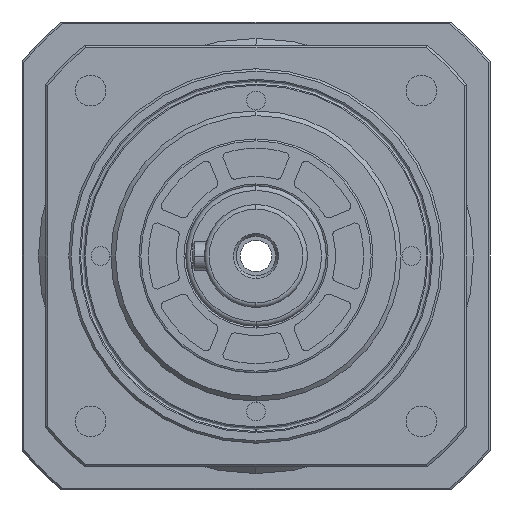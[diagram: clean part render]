
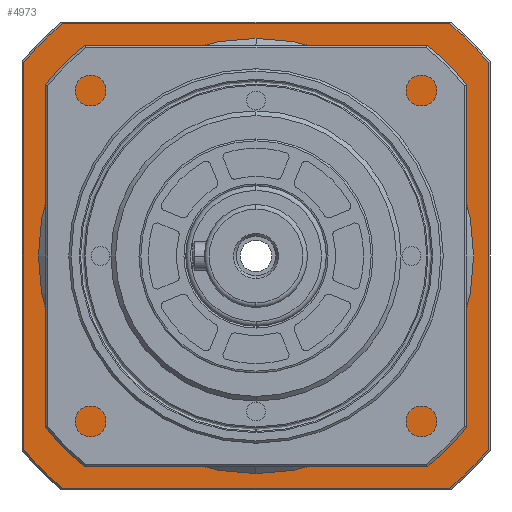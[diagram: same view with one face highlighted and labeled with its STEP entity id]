
A CAD part, left-side view. The second image highlights one B-rep face of the part: STEP entity #4973.
In plain terms, the highlighted planar face has unit normal (-1, 0, 0).
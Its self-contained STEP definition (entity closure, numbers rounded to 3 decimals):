
#1871 = DIRECTION ( 'NONE',  ( 0., 0., -1. ) ) ;
#1873 = DIRECTION ( 'NONE',  ( -1., 0., 0. ) ) ;
#1900 = CARTESIAN_POINT ( 'NONE',  ( 206.4, 2.422, 0. ) ) ;
#1901 = DIRECTION ( 'NONE',  ( 0., 0., -1. ) ) ;
#1926 = DIRECTION ( 'NONE',  ( 0., 0., -1. ) ) ;
#1928 = DIRECTION ( 'NONE',  ( 1., 0., 0. ) ) ;
#1933 = CARTESIAN_POINT ( 'NONE',  ( 206.4, 2.422, 0. ) ) ;
#1939 = DIRECTION ( 'NONE',  ( 0., 0., -1. ) ) ;
#1940 = DIRECTION ( 'NONE',  ( 1., 0., 0. ) ) ;
#1941 = CARTESIAN_POINT ( 'NONE',  ( 206.4, 2.422, 0. ) ) ;
#1947 = CARTESIAN_POINT ( 'NONE',  ( 206.4, 52.022, 0. ) ) ;
#1949 = CARTESIAN_POINT ( 'NONE',  ( 206.4, 41.422, 49.6 ) ) ;
#1951 = DIRECTION ( 'NONE',  ( 0., 1., 0. ) ) ;
#2785 = DIRECTION ( 'NONE',  ( 0., 0., -1. ) ) ;
#2791 = DIRECTION ( 'NONE',  ( -1., 0., 0. ) ) ;
#2793 = CARTESIAN_POINT ( 'NONE',  ( 206.4, 2.422, 0. ) ) ;
#2838 = DIRECTION ( 'NONE',  ( -1., 0., 0. ) ) ;
#3114 = CARTESIAN_POINT ( 'NONE',  ( 206.4, -47.178, 0. ) ) ;
#3125 = DIRECTION ( 'NONE',  ( 0., 0., 1. ) ) ;
#3135 = DIRECTION ( 'NONE',  ( 0., 0., -1. ) ) ;
#3138 = CARTESIAN_POINT ( 'NONE',  ( 206.4, 2.422, 0. ) ) ;
#4692 = AXIS2_PLACEMENT_3D ( 'NONE', #8135, #8134, #8005 ) ;
#4809 = AXIS2_PLACEMENT_3D ( 'NONE', #1933, #1928, #1926 ) ;
#4817 = AXIS2_PLACEMENT_3D ( 'NONE', #1900, #1873, #1871 ) ;
#4820 = AXIS2_PLACEMENT_3D ( 'NONE', #1941, #1940, #1939 ) ;
#4822 = AXIS2_PLACEMENT_3D ( 'NONE', #2793, #2791, #2785 ) ;
#4823 = AXIS2_PLACEMENT_3D ( 'NONE', #3138, #2838, #3135 ) ;
#4973 = ADVANCED_FACE ( 'NONE', ( #8807, #8816 ), #11020, .F. ) ;
#6368 = VECTOR ( 'NONE', #8482, 1000. ) ;
#6370 = LINE ( 'NONE', #8478, #6368 ) ;
#7217 = EDGE_CURVE ( 'NONE', #9050, #13887, #7384, .T. ) ;
#7218 = EDGE_CURVE ( 'NONE', #9097, #9215, #7425, .T. ) ;
#7219 = EDGE_CURVE ( 'NONE', #9168, #9050, #7428, .T. ) ;
#7222 = EDGE_CURVE ( 'NONE', #9057, #9097, #7452, .T. ) ;
#7224 = EDGE_CURVE ( 'NONE', #14129, #14205, #7463, .T. ) ;
#7228 = EDGE_CURVE ( 'NONE', #9215, #9111, #7727, .T. ) ;
#7229 = EDGE_CURVE ( 'NONE', #9111, #9101, #7743, .T. ) ;
#7243 = EDGE_CURVE ( 'NONE', #14205, #14129, #7850, .T. ) ;
#7302 = VECTOR ( 'NONE', #3125, 1000. ) ;
#7384 = LINE ( 'NONE', #3114, #7302 ) ;
#7425 = CIRCLE ( 'NONE', #4823, 64.6 ) ;
#7428 = CIRCLE ( 'NONE', #4822, 64.6 ) ;
#7452 = LINE ( 'NONE', #1949, #7459 ) ;
#7459 = VECTOR ( 'NONE', #1951, 1000. ) ;
#7463 = CIRCLE ( 'NONE', #4820, 39.4 ) ;
#7614 = EDGE_CURVE ( 'NONE', #9101, #9168, #6370, .T. ) ;
#7662 = EDGE_CURVE ( 'NONE', #13887, #9057, #12996, .T. ) ;
#7727 = LINE ( 'NONE', #1947, #7761 ) ;
#7743 = CIRCLE ( 'NONE', #4817, 64.6 ) ;
#7761 = VECTOR ( 'NONE', #1901, 1000. ) ;
#7850 = CIRCLE ( 'NONE', #4809, 39.4 ) ;
#8005 = DIRECTION ( 'NONE',  ( 0., 0., -1. ) ) ;
#8134 = DIRECTION ( 'NONE',  ( -1., 0., 0. ) ) ;
#8135 = CARTESIAN_POINT ( 'NONE',  ( 206.4, 2.422, 0. ) ) ;
#8227 = CARTESIAN_POINT ( 'NONE',  ( 206.4, -47.178, -41.388 ) ) ;
#8236 = CARTESIAN_POINT ( 'NONE',  ( 206.4, -38.967, 49.6 ) ) ;
#8284 = CARTESIAN_POINT ( 'NONE',  ( 206.4, 43.81, 49.6 ) ) ;
#8290 = CARTESIAN_POINT ( 'NONE',  ( 206.4, 43.81, -49.6 ) ) ;
#8302 = CARTESIAN_POINT ( 'NONE',  ( 206.4, 52.022, -41.388 ) ) ;
#8478 = CARTESIAN_POINT ( 'NONE',  ( 206.4, 41.422, -49.6 ) ) ;
#8482 = DIRECTION ( 'NONE',  ( 0., -1., 0. ) ) ;
#8807 = FACE_BOUND ( 'NONE', #10013, .T. ) ;
#8816 = FACE_OUTER_BOUND ( 'NONE', #10010, .T. ) ;
#9050 = VERTEX_POINT ( 'NONE', #8227 ) ;
#9057 = VERTEX_POINT ( 'NONE', #8236 ) ;
#9097 = VERTEX_POINT ( 'NONE', #8284 ) ;
#9101 = VERTEX_POINT ( 'NONE', #8290 ) ;
#9111 = VERTEX_POINT ( 'NONE', #8302 ) ;
#9168 = VERTEX_POINT ( 'NONE', #13632 ) ;
#9215 = VERTEX_POINT ( 'NONE', #13169 ) ;
#9974 = ORIENTED_EDGE ( 'NONE', *, *, #7243, .T. ) ;
#10010 = EDGE_LOOP ( 'NONE', ( #10034, #10021, #10268, #10325, #10322, #10327, #10324, #10328 ) ) ;
#10013 = EDGE_LOOP ( 'NONE', ( #9974, #10281 ) ) ;
#10021 = ORIENTED_EDGE ( 'NONE', *, *, #7218, .T. ) ;
#10034 = ORIENTED_EDGE ( 'NONE', *, *, #7222, .T. ) ;
#10268 = ORIENTED_EDGE ( 'NONE', *, *, #7228, .T. ) ;
#10281 = ORIENTED_EDGE ( 'NONE', *, *, #7224, .T. ) ;
#10322 = ORIENTED_EDGE ( 'NONE', *, *, #7614, .T. ) ;
#10324 = ORIENTED_EDGE ( 'NONE', *, *, #7217, .T. ) ;
#10325 = ORIENTED_EDGE ( 'NONE', *, *, #7229, .T. ) ;
#10327 = ORIENTED_EDGE ( 'NONE', *, *, #7219, .T. ) ;
#10328 = ORIENTED_EDGE ( 'NONE', *, *, #7662, .T. ) ;
#11002 = DIRECTION ( 'NONE',  ( 0., 0., -1. ) ) ;
#11017 = DIRECTION ( 'NONE',  ( 1., 0., 0. ) ) ;
#11020 = PLANE ( 'NONE',  #14709 ) ;
#11021 = CARTESIAN_POINT ( 'NONE',  ( 206.4, 41.422, 0. ) ) ;
#11445 = CARTESIAN_POINT ( 'NONE',  ( 206.4, 2.422, -39.4 ) ) ;
#12028 = CARTESIAN_POINT ( 'NONE',  ( 206.4, -47.178, 41.388 ) ) ;
#12222 = CARTESIAN_POINT ( 'NONE',  ( 206.4, 2.422, 39.4 ) ) ;
#12996 = CIRCLE ( 'NONE', #4692, 64.6 ) ;
#13169 = CARTESIAN_POINT ( 'NONE',  ( 206.4, 52.022, 41.388 ) ) ;
#13632 = CARTESIAN_POINT ( 'NONE',  ( 206.4, -38.967, -49.6 ) ) ;
#13887 = VERTEX_POINT ( 'NONE', #12028 ) ;
#14129 = VERTEX_POINT ( 'NONE', #11445 ) ;
#14205 = VERTEX_POINT ( 'NONE', #12222 ) ;
#14709 = AXIS2_PLACEMENT_3D ( 'NONE', #11021, #11017, #11002 ) ;
